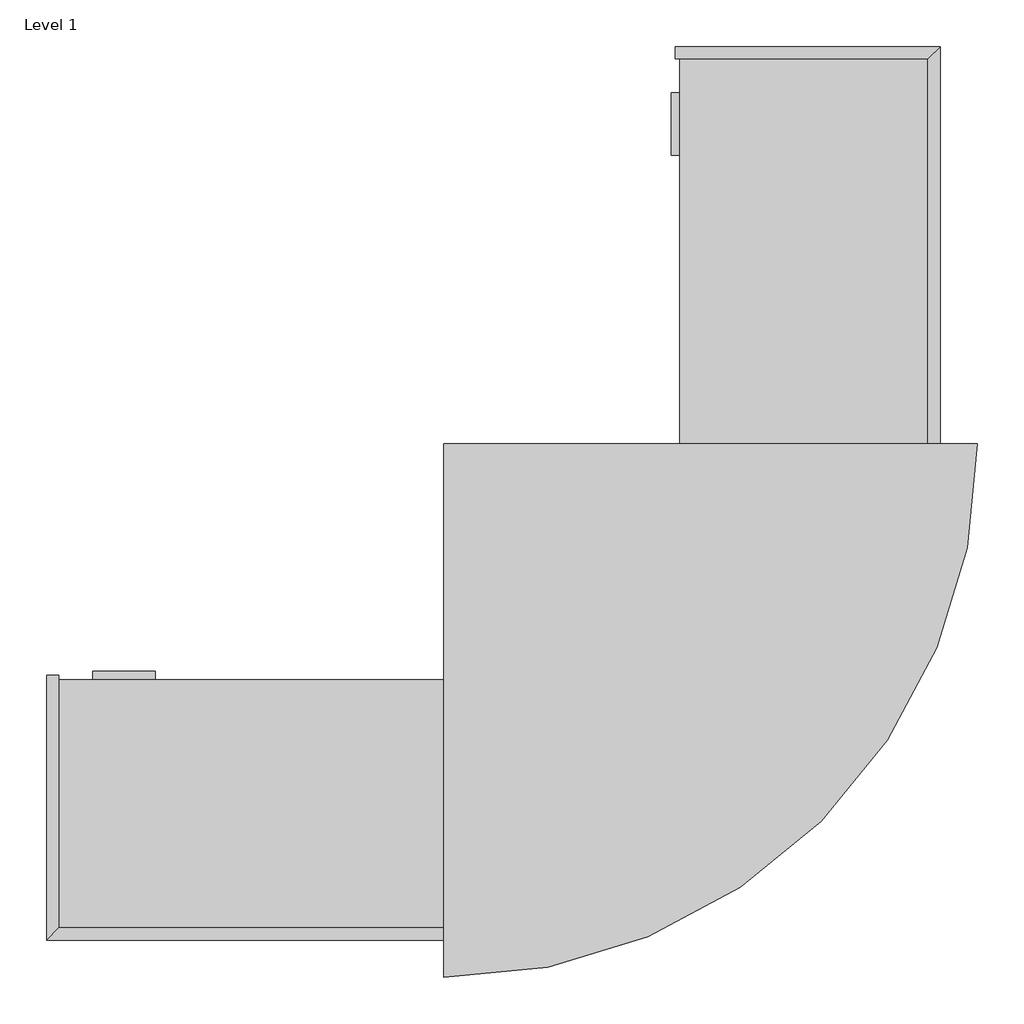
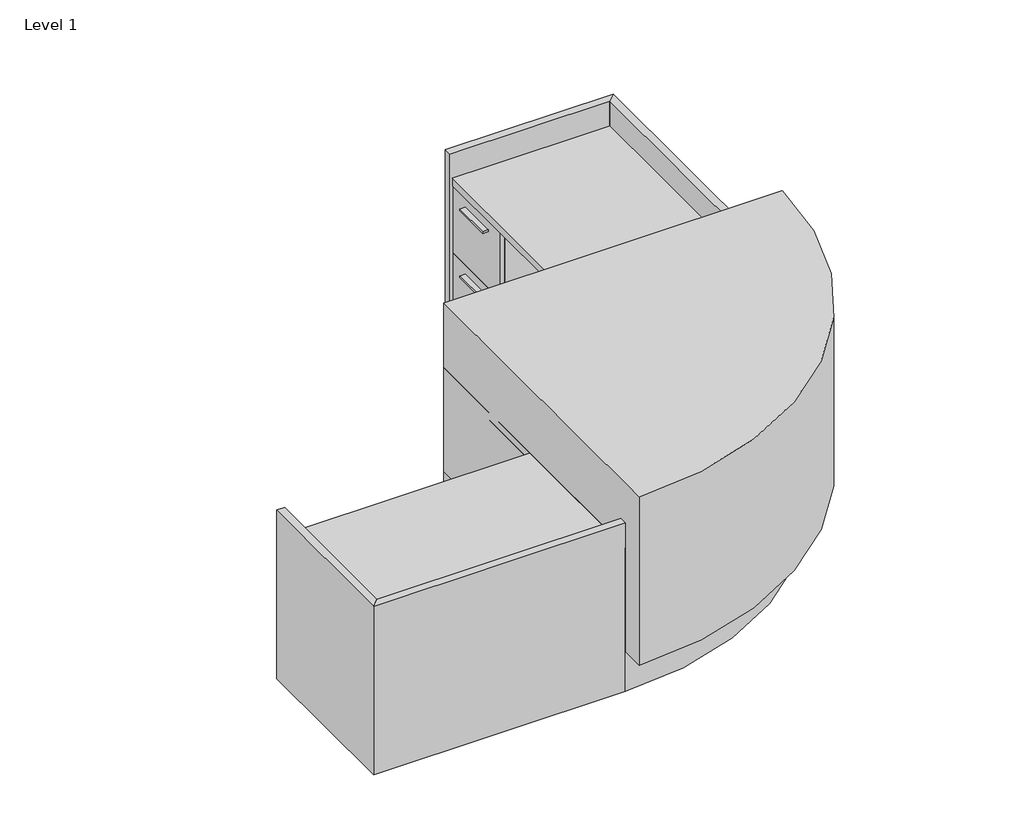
# One storey: 6 proxies.
"""IFC4 building model written with IfcOpenShell, lengths in millimetres."""

from ifc_helpers import new_model, si_unit, origin, place, context, project, spatial, transform, mapped, element, save
from components import generic_models_16f8150b, generic_models_39aa693d

model = new_model("IFC4")

# Units and contexts
model_context = context("Model", 3, world=origin())
ifc_project = project(units=[si_unit("LENGTHUNIT", "METRE", prefix="MILLI")], contexts=[model_context])

# Site, building, storey
site = spatial("IfcSite", under=ifc_project)
building = spatial("IfcBuilding", under=site)
storey = spatial("IfcBuildingStorey", under=building, Name="Level 1", Elevation=0.0)

# Proxies
placement = place(None, origin())
generic_models_shape = generic_models_16f8150b(model_context)
element("IfcBuildingElementProxy", 1, Name="HAFELE 102.12.004-7_5 INCH", ObjectType="HAFELE 102.12.004-7_5 INCH", at=placement, inside=storey, context=model_context, shape_type="MappedRepresentation", body=[
    mapped(generic_models_shape, transform((1971.675, -99.3775, 640.87375), x_axis=(0.0, -1.0, 0.0), y_axis=(0.0, 0.0, 1.0), z_axis=(-1.0, 0.0, 0.0))),
])
element("IfcBuildingElementProxy", 2, Name="HAFELE 102.12.004-7_5 INCH", ObjectType="HAFELE 102.12.004-7_5 INCH", at=placement, inside=storey, context=model_context, shape_type="MappedRepresentation", body=[
    mapped(generic_models_shape, transform((99.3775, -1971.675, 649.76375), x_axis=(1.0, 0.0, 0.0), y_axis=(0.0, 0.0, -1.0), z_axis=(0.0, 1.0, 0.0))),
])
element("IfcBuildingElementProxy", 3, Name="HAFELE 102.12.004-7_5 INCH", ObjectType="HAFELE 102.12.004-7_5 INCH", at=placement, inside=storey, context=model_context, shape_type="MappedRepresentation", body=[
    mapped(generic_models_shape, transform((1971.675, -99.3775, 297.18), x_axis=(0.0, -1.0, 0.0), y_axis=(0.0, 0.0, 1.0), z_axis=(-1.0, 0.0, 0.0))),
])
element("IfcBuildingElementProxy", 4, Name="HAFELE 102.12.004-7_5 INCH", ObjectType="HAFELE 102.12.004-7_5 INCH", at=placement, inside=storey, context=model_context, shape_type="MappedRepresentation", body=[
    mapped(generic_models_shape, transform((99.3775, -1971.675, 477.916875), x_axis=(1.0, 0.0, 0.0), y_axis=(0.0, 0.0, -1.0), z_axis=(0.0, 1.0, 0.0))),
])
element("IfcBuildingElementProxy", 5, Name="HAFELE 102.12.004-7_5 INCH", ObjectType="HAFELE 102.12.004-7_5 INCH", at=placement, inside=storey, context=model_context, shape_type="MappedRepresentation", body=[
    mapped(generic_models_shape, transform((99.3775, -1971.675, 306.07), x_axis=(1.0, 0.0, 0.0), y_axis=(0.0, 0.0, -1.0), z_axis=(0.0, 1.0, 0.0))),
])
generic_models_2_shape = generic_models_39aa693d(model_context)
element("IfcBuildingElementProxy", 6, Name="SALUTE^RECEPT 6_QUARTER ROUND-PARTS SOLID", ObjectType="SALUTE^RECEPT 6_QUARTER ROUND-PARTS SOLID", at=placement, inside=storey, context=model_context, shape_type="MappedRepresentation", body=[
    mapped(generic_models_2_shape, transform((0.0, -2743.2, 0.0), x_axis=(1.0, 0.0, 0.0), y_axis=(0.0, 0.0, 1.0), z_axis=(0.0, -1.0, 0.0))),
])

save(model, "model.ifc")
